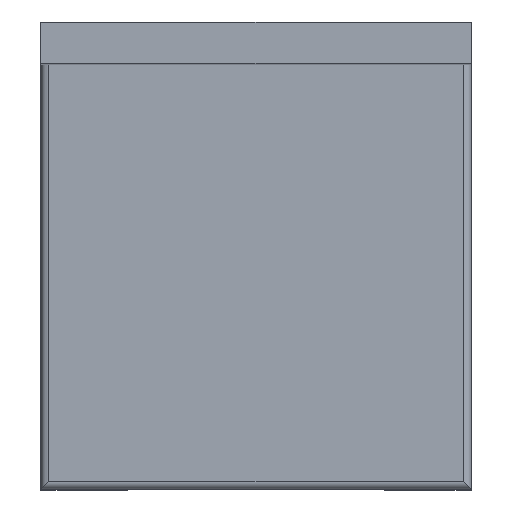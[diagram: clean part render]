
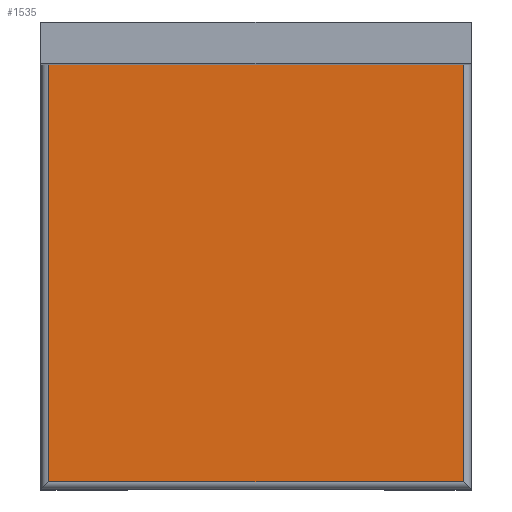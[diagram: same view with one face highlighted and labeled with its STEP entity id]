
A CAD part, top view. The second image highlights one B-rep face of the part: STEP entity #1535.
In plain terms, the highlighted planar face has unit normal (0, 0, 1).
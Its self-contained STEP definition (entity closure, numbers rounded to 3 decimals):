
#238 = CYLINDRICAL_SURFACE('',#239,1.19);
#239 = AXIS2_PLACEMENT_3D('',#240,#241,#242);
#240 = CARTESIAN_POINT('',(-31.995,-35.97,3.7));
#241 = DIRECTION('',(0.,1.,0.));
#242 = DIRECTION('',(-1.,0.,0.));
#426 = CYLINDRICAL_SURFACE('',#427,1.19);
#427 = AXIS2_PLACEMENT_3D('',#428,#429,#430);
#428 = CARTESIAN_POINT('',(-33.185,-34.78,3.7));
#429 = DIRECTION('',(1.,0.,0.));
#430 = DIRECTION('',(0.,-1.,0.));
#994 = VERTEX_POINT('',#995);
#995 = CARTESIAN_POINT('',(-31.995,-34.78,4.89));
#1027 = EDGE_CURVE('',#994,#1028,#1030,.T.);
#1028 = VERTEX_POINT('',#1029);
#1029 = CARTESIAN_POINT('',(-31.995,29.57,4.89));
#1030 = SURFACE_CURVE('',#1031,(#1035,#1042),.PCURVE_S1.);
#1031 = LINE('',#1032,#1033);
#1032 = CARTESIAN_POINT('',(-31.995,-35.97,4.89));
#1033 = VECTOR('',#1034,1.);
#1034 = DIRECTION('',(0.,1.,0.));
#1035 = PCURVE('',#238,#1036);
#1036 = DEFINITIONAL_REPRESENTATION('',(#1037),#1041);
#1037 = LINE('',#1038,#1039);
#1038 = CARTESIAN_POINT('',(1.571,0.));
#1039 = VECTOR('',#1040,1.);
#1040 = DIRECTION('',(0.,1.));
#1041 = ( GEOMETRIC_REPRESENTATION_CONTEXT(2) 
PARAMETRIC_REPRESENTATION_CONTEXT() REPRESENTATION_CONTEXT('2D SPACE',''
  ) );
#1042 = PCURVE('',#1043,#1048);
#1043 = PLANE('',#1044);
#1044 = AXIS2_PLACEMENT_3D('',#1045,#1046,#1047);
#1045 = CARTESIAN_POINT('',(-33.185,-35.97,4.89));
#1046 = DIRECTION('',(0.,0.,1.));
#1047 = DIRECTION('',(1.,0.,0.));
#1048 = DEFINITIONAL_REPRESENTATION('',(#1049),#1053);
#1049 = LINE('',#1050,#1051);
#1050 = CARTESIAN_POINT('',(1.19,0.));
#1051 = VECTOR('',#1052,1.);
#1052 = DIRECTION('',(0.,1.));
#1053 = ( GEOMETRIC_REPRESENTATION_CONTEXT(2) 
PARAMETRIC_REPRESENTATION_CONTEXT() REPRESENTATION_CONTEXT('2D SPACE',''
  ) );
#1224 = CYLINDRICAL_SURFACE('',#1225,1.19);
#1225 = AXIS2_PLACEMENT_3D('',#1226,#1227,#1228);
#1226 = CARTESIAN_POINT('',(31.995,-35.97,3.7));
#1227 = DIRECTION('',(0.,1.,0.));
#1228 = DIRECTION('',(1.,0.,-0.));
#1323 = EDGE_CURVE('',#994,#1324,#1326,.T.);
#1324 = VERTEX_POINT('',#1325);
#1325 = CARTESIAN_POINT('',(31.995,-34.78,4.89));
#1326 = SURFACE_CURVE('',#1327,(#1331,#1338),.PCURVE_S1.);
#1327 = LINE('',#1328,#1329);
#1328 = CARTESIAN_POINT('',(-33.185,-34.78,4.89));
#1329 = VECTOR('',#1330,1.);
#1330 = DIRECTION('',(1.,0.,0.));
#1331 = PCURVE('',#426,#1332);
#1332 = DEFINITIONAL_REPRESENTATION('',(#1333),#1337);
#1333 = LINE('',#1334,#1335);
#1334 = CARTESIAN_POINT('',(-1.571,0.));
#1335 = VECTOR('',#1336,1.);
#1336 = DIRECTION('',(-0.,1.));
#1337 = ( GEOMETRIC_REPRESENTATION_CONTEXT(2) 
PARAMETRIC_REPRESENTATION_CONTEXT() REPRESENTATION_CONTEXT('2D SPACE',''
  ) );
#1338 = PCURVE('',#1043,#1339);
#1339 = DEFINITIONAL_REPRESENTATION('',(#1340),#1344);
#1340 = LINE('',#1341,#1342);
#1341 = CARTESIAN_POINT('',(0.,1.19));
#1342 = VECTOR('',#1343,1.);
#1343 = DIRECTION('',(1.,0.));
#1344 = ( GEOMETRIC_REPRESENTATION_CONTEXT(2) 
PARAMETRIC_REPRESENTATION_CONTEXT() REPRESENTATION_CONTEXT('2D SPACE',''
  ) );
#1535 = ADVANCED_FACE('',(#1536),#1043,.T.);
#1536 = FACE_BOUND('',#1537,.T.);
#1537 = EDGE_LOOP('',(#1538,#1539,#1540,#1563));
#1538 = ORIENTED_EDGE('',*,*,#1027,.F.);
#1539 = ORIENTED_EDGE('',*,*,#1323,.T.);
#1540 = ORIENTED_EDGE('',*,*,#1541,.T.);
#1541 = EDGE_CURVE('',#1324,#1542,#1544,.T.);
#1542 = VERTEX_POINT('',#1543);
#1543 = CARTESIAN_POINT('',(31.995,29.57,4.89));
#1544 = SURFACE_CURVE('',#1545,(#1549,#1556),.PCURVE_S1.);
#1545 = LINE('',#1546,#1547);
#1546 = CARTESIAN_POINT('',(31.995,-35.97,4.89));
#1547 = VECTOR('',#1548,1.);
#1548 = DIRECTION('',(0.,1.,0.));
#1549 = PCURVE('',#1043,#1550);
#1550 = DEFINITIONAL_REPRESENTATION('',(#1551),#1555);
#1551 = LINE('',#1552,#1553);
#1552 = CARTESIAN_POINT('',(65.18,0.));
#1553 = VECTOR('',#1554,1.);
#1554 = DIRECTION('',(0.,1.));
#1555 = ( GEOMETRIC_REPRESENTATION_CONTEXT(2) 
PARAMETRIC_REPRESENTATION_CONTEXT() REPRESENTATION_CONTEXT('2D SPACE',''
  ) );
#1556 = PCURVE('',#1224,#1557);
#1557 = DEFINITIONAL_REPRESENTATION('',(#1558),#1562);
#1558 = LINE('',#1559,#1560);
#1559 = CARTESIAN_POINT('',(-1.571,0.));
#1560 = VECTOR('',#1561,1.);
#1561 = DIRECTION('',(-0.,1.));
#1562 = ( GEOMETRIC_REPRESENTATION_CONTEXT(2) 
PARAMETRIC_REPRESENTATION_CONTEXT() REPRESENTATION_CONTEXT('2D SPACE',''
  ) );
#1563 = ORIENTED_EDGE('',*,*,#1564,.F.);
#1564 = EDGE_CURVE('',#1028,#1542,#1565,.T.);
#1565 = SURFACE_CURVE('',#1566,(#1570,#1577),.PCURVE_S1.);
#1566 = LINE('',#1567,#1568);
#1567 = CARTESIAN_POINT('',(-33.185,29.57,4.89));
#1568 = VECTOR('',#1569,1.);
#1569 = DIRECTION('',(1.,0.,0.));
#1570 = PCURVE('',#1043,#1571);
#1571 = DEFINITIONAL_REPRESENTATION('',(#1572),#1576);
#1572 = LINE('',#1573,#1574);
#1573 = CARTESIAN_POINT('',(0.,65.54));
#1574 = VECTOR('',#1575,1.);
#1575 = DIRECTION('',(1.,0.));
#1576 = ( GEOMETRIC_REPRESENTATION_CONTEXT(2) 
PARAMETRIC_REPRESENTATION_CONTEXT() REPRESENTATION_CONTEXT('2D SPACE',''
  ) );
#1577 = PCURVE('',#1578,#1583);
#1578 = PLANE('',#1579);
#1579 = AXIS2_PLACEMENT_3D('',#1580,#1581,#1582);
#1580 = CARTESIAN_POINT('',(-33.185,29.57,4.89));
#1581 = DIRECTION('',(0.,1.,0.));
#1582 = DIRECTION('',(0.,0.,1.));
#1583 = DEFINITIONAL_REPRESENTATION('',(#1584),#1588);
#1584 = LINE('',#1585,#1586);
#1585 = CARTESIAN_POINT('',(0.,0.));
#1586 = VECTOR('',#1587,1.);
#1587 = DIRECTION('',(0.,1.));
#1588 = ( GEOMETRIC_REPRESENTATION_CONTEXT(2) 
PARAMETRIC_REPRESENTATION_CONTEXT() REPRESENTATION_CONTEXT('2D SPACE',''
  ) );
